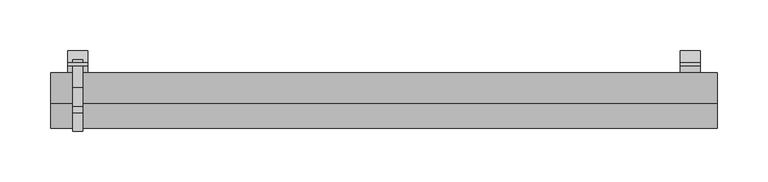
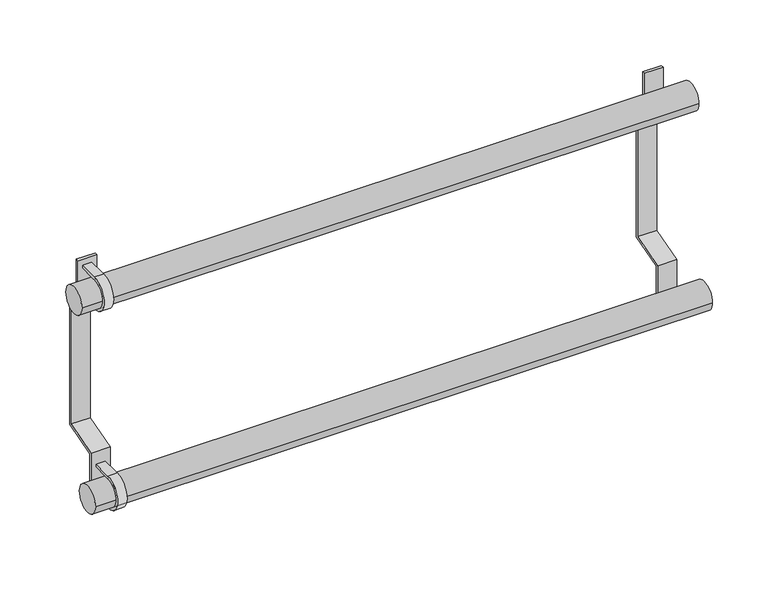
"""IFC4 building model written with IfcOpenShell, lengths in millimetres: valve geometry, PL AT_Manifold_FT-EV : 12 circuits."""

from ifc_helpers import new_model, si_unit, point, frame, frame_2d, origin, origin_2d, place, context, project, spatial, polyline, circle_curve, trimmed, segment, composite_curve, outline, extrude, source, transform, mapped, element, save


def valve_24eee51e(model_context):
    return source(origin(), model_context, "Body", "SweptSolid", [
        extrude(outline(polyline([(62.0, 182.8840762), (62.0, 40.6095793), (25.0, 30.0), (25.0, -30.0), (22.0, -30.0), (22.0, 32.2606622), (59.0, 42.8702414), (59.0, 180.3667773), (47.0, 182.4827011), (47.0, 235.0), (50.0, 235.0), (50.0, 185.0), (62.0, 182.8840762)])), frame((606.0, 0.0, 0.0), z_axis=(1.0, 0.0, 0.0), x_axis=(0.0, 1.0, 0.0)), (0.0, 0.0, 1.0), 20.0),
        extrude(outline(composite_curve([segment(trimmed(circle_curve(origin_2d(), 15.0), [point((0.0, 15.0))], [point((0.0, -15.0))], True, "CARTESIAN"), True, "CONTINUOUS"), segment(polyline([(0.0, -15.0), (27.6751284, -15.0), (27.6751284, -18.0), (0.0, -18.0)]), True, "CONTINUOUS"), segment(trimmed(circle_curve(origin_2d(), 18.0), [point((0.0, -18.0))], [point((0.0, 18.0))], False, "CARTESIAN"), True, "CONTINUOUS"), segment(polyline([(0.0, 18.0), (27.6751284, 18.0), (27.6751284, 15.0), (0.0, 15.0)]), True, "CONTINUOUS")], self_intersect=False)), frame((5.0, 0.0, 0.0), z_axis=(1.0, 0.0, 0.0), x_axis=(0.0, 1.0, 0.0)), (0.0, 0.0, 1.0), 10.0),
        extrude(outline(composite_curve([segment(trimmed(circle_curve(frame_2d((25.0, 210.0)), 15.0), [point((25.0, 225.0))], [point((25.0, 195.0))], True, "CARTESIAN"), True, "CONTINUOUS"), segment(polyline([(25.0, 195.0), (52.6751284, 195.0), (52.6751284, 192.0), (25.0, 192.0)]), True, "CONTINUOUS"), segment(trimmed(circle_curve(frame_2d((25.0, 210.0)), 18.0), [point((25.0, 192.0))], [point((25.0, 228.0))], False, "CARTESIAN"), True, "CONTINUOUS"), segment(polyline([(25.0, 228.0), (52.6751284, 228.0), (52.6751284, 225.0), (25.0, 225.0)]), True, "CONTINUOUS")], self_intersect=False)), frame((5.0, 0.0, 0.0), z_axis=(1.0, 0.0, 0.0), x_axis=(0.0, 1.0, 0.0)), (0.0, 0.0, 1.0), 10.0),
        extrude(outline(polyline([(62.0, 182.8840762), (62.0, 40.6095793), (25.0, 30.0), (25.0, -30.0), (22.0, -30.0), (22.0, 32.2606622), (59.0, 42.8702414), (59.0, 180.3667773), (47.0, 182.4827011), (47.0, 235.0), (50.0, 235.0), (50.0, 185.0), (62.0, 182.8840762)])), frame((0.0, 0.0, 0.0), z_axis=(1.0, 0.0, 0.0), x_axis=(0.0, 1.0, 0.0)), (0.0, 0.0, 1.0), 20.0),
        extrude(outline(composite_curve([segment(trimmed(circle_curve(origin_2d(), 15.0), [point((15.0, 0.0))], [point((-15.0, 0.0))], False, "CARTESIAN"), True, "CONTINUOUS"), segment(trimmed(circle_curve(origin_2d(), 15.0), [point((-15.0, 0.0))], [point((15.0, 0.0))], False, "CARTESIAN"), True, "CONTINUOUS")], self_intersect=False)), frame((-17.0, 0.0, 0.0), z_axis=(1.0, 0.0, 0.0), x_axis=(0.0, 1.0, 0.0)), (0.0, 0.0, 1.0), 660.0),
        extrude(outline(composite_curve([segment(trimmed(circle_curve(frame_2d((25.0, 210.0)), 15.0), [point((40.0, 210.0))], [point((10.0, 210.0))], False, "CARTESIAN"), True, "CONTINUOUS"), segment(trimmed(circle_curve(frame_2d((25.0, 210.0)), 15.0), [point((10.0, 210.0))], [point((40.0, 210.0))], False, "CARTESIAN"), True, "CONTINUOUS")], self_intersect=False)), frame((-17.0, 0.0, 0.0), z_axis=(1.0, 0.0, 0.0), x_axis=(0.0, 1.0, 0.0)), (0.0, 0.0, 1.0), 660.0),
    ])


if __name__ == "__main__":
    model = new_model("IFC4")
    model_context = context("Model", 3, world=origin())
    ifc_project = project(units=[si_unit("LENGTHUNIT", "METRE", prefix="MILLI")], contexts=[model_context])
    site = spatial("IfcSite", under=ifc_project)
    building = spatial("IfcBuilding", under=site)
    placement = place(None, origin())
    valve_shape = valve_24eee51e(model_context)
    element("IfcValve", 1, ObjectType="PL AT_Manifold_FT-EV : 12 circuits", at=placement, inside=building, context=model_context, shape_type="MappedRepresentation", body=[
        mapped(valve_shape, transform((0.0, 0.0, 0.0), x_axis=(1.0, 0.0, 0.0), y_axis=(0.0, 1.0, 0.0), z_axis=(0.0, 0.0, 1.0))),
    ])
    save(model, "model.ifc")
